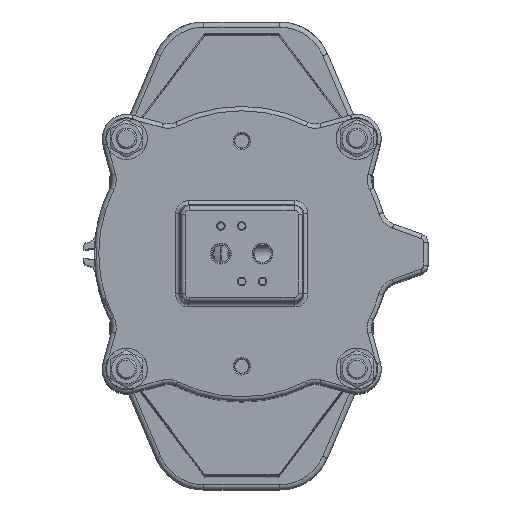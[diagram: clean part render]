
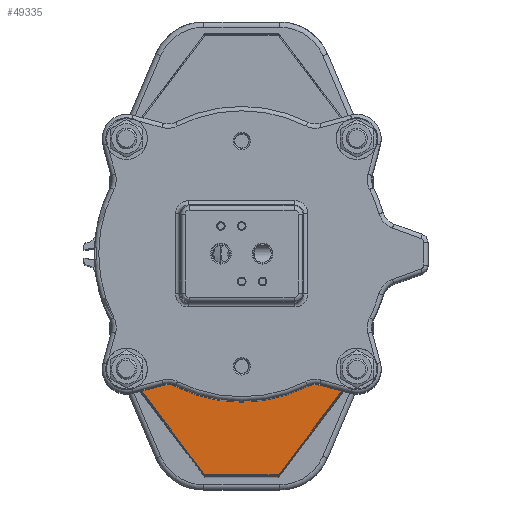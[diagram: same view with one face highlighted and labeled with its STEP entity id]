
A CAD part, top view. The second image highlights one B-rep face of the part: STEP entity #49335.
In plain terms, the highlighted planar face has unit normal (0, 0, 1).
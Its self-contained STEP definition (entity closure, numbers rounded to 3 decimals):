
#5217=LINE('',#100960,#8097);
#5218=LINE('',#100963,#8098);
#5222=LINE('',#100971,#8102);
#5225=LINE('',#100977,#8105);
#5228=LINE('',#100983,#8108);
#5235=LINE('',#100996,#8115);
#5238=LINE('',#101039,#8118);
#5505=LINE('',#103087,#8385);
#5506=LINE('',#103089,#8386);
#5507=LINE('',#103090,#8387);
#8097=VECTOR('',#67085,10.);
#8098=VECTOR('',#67088,10.);
#8102=VECTOR('',#67094,10.);
#8105=VECTOR('',#67097,10.);
#8108=VECTOR('',#67102,10.);
#8115=VECTOR('',#67113,10.);
#8118=VECTOR('',#67120,10.);
#8385=VECTOR('',#68601,10.);
#8386=VECTOR('',#68602,10.);
#8387=VECTOR('',#68603,10.);
#12367=FACE_OUTER_BOUND('',#15556,.T.);
#15556=EDGE_LOOP('',(#43271,#43272,#43273,#43274,#43275,#43276,#43277,#43278,
#43279,#43280));
#22717=VERTEX_POINT('',#100951);
#22721=VERTEX_POINT('',#100958);
#22722=VERTEX_POINT('',#100962);
#22725=VERTEX_POINT('',#100969);
#22727=VERTEX_POINT('',#100974);
#22728=VERTEX_POINT('',#100976);
#22730=VERTEX_POINT('',#100982);
#22734=VERTEX_POINT('',#100994);
#23078=VERTEX_POINT('',#103086);
#23079=VERTEX_POINT('',#103088);
#29212=EDGE_CURVE('',#22721,#22717,#5217,.T.);
#29213=EDGE_CURVE('',#22722,#22721,#5218,.T.);
#29217=EDGE_CURVE('',#22725,#22722,#5222,.T.);
#29220=EDGE_CURVE('',#22727,#22728,#5225,.T.);
#29223=EDGE_CURVE('',#22730,#22727,#5228,.T.);
#29230=EDGE_CURVE('',#22734,#22730,#5235,.T.);
#29237=EDGE_CURVE('',#22734,#22717,#5238,.T.);
#29941=EDGE_CURVE('',#22725,#23078,#5505,.T.);
#29942=EDGE_CURVE('',#23078,#23079,#5506,.T.);
#29943=EDGE_CURVE('',#23079,#22728,#5507,.T.);
#43271=ORIENTED_EDGE('',*,*,#29941,.T.);
#43272=ORIENTED_EDGE('',*,*,#29942,.T.);
#43273=ORIENTED_EDGE('',*,*,#29943,.T.);
#43274=ORIENTED_EDGE('',*,*,#29220,.F.);
#43275=ORIENTED_EDGE('',*,*,#29223,.F.);
#43276=ORIENTED_EDGE('',*,*,#29230,.F.);
#43277=ORIENTED_EDGE('',*,*,#29237,.T.);
#43278=ORIENTED_EDGE('',*,*,#29212,.F.);
#43279=ORIENTED_EDGE('',*,*,#29213,.F.);
#43280=ORIENTED_EDGE('',*,*,#29217,.F.);
#46794=PLANE('',#54917);
#49335=ADVANCED_FACE('',(#12367),#46794,.T.);
#54917=AXIS2_PLACEMENT_3D('',#103085,#68599,#68600);
#67085=DIRECTION('',(-0.594,-0.804,0.));
#67088=DIRECTION('',(0.,-1.,0.));
#67094=DIRECTION('',(1.,0.,0.));
#67097=DIRECTION('',(1.,0.,0.));
#67102=DIRECTION('',(0.,1.,0.));
#67113=DIRECTION('',(-0.594,0.804,0.));
#67120=DIRECTION('',(1.,0.,0.));
#68599=DIRECTION('center_axis',(0.,0.,
1.));
#68600=DIRECTION('ref_axis',(1.,0.,0.));
#68601=DIRECTION('',(-0.882,-0.471,0.));
#68602=DIRECTION('',(-1.,0.,0.));
#68603=DIRECTION('',(-0.882,0.471,0.));
#100951=CARTESIAN_POINT('',(22.17,-126.565,483.3));
#100958=CARTESIAN_POINT('',(65.,-68.619,483.3));
#100960=CARTESIAN_POINT('',(65.,-68.619,483.3));
#100962=CARTESIAN_POINT('',(65.,-60.149,483.3));
#100963=CARTESIAN_POINT('',(65.,-60.149,483.3));
#100969=CARTESIAN_POINT('',(63.971,-60.149,483.3));
#100971=CARTESIAN_POINT('',(-65.,-60.149,483.3));
#100974=CARTESIAN_POINT('',(-65.,-60.149,483.3));
#100976=CARTESIAN_POINT('',(-63.971,-60.149,483.3));
#100977=CARTESIAN_POINT('',(-65.,-60.149,483.3));
#100982=CARTESIAN_POINT('',(-65.,-68.619,483.3));
#100983=CARTESIAN_POINT('',(-65.,-68.619,483.3));
#100994=CARTESIAN_POINT('',(-22.17,-126.565,483.3));
#100996=CARTESIAN_POINT('',(-21.,-128.149,483.3));
#101039=CARTESIAN_POINT('',(-11.085,-126.565,483.3));
#103085=CARTESIAN_POINT('Origin',(0.,-247.149,
483.3));
#103086=CARTESIAN_POINT('',(60.5,-62.,483.3));
#103087=CARTESIAN_POINT('',(6.01,-91.061,483.3));
#103088=CARTESIAN_POINT('',(-60.5,-62.,483.3));
#103089=CARTESIAN_POINT('',(30.25,-62.,483.3));
#103090=CARTESIAN_POINT('',(1.49,-95.061,483.3));
